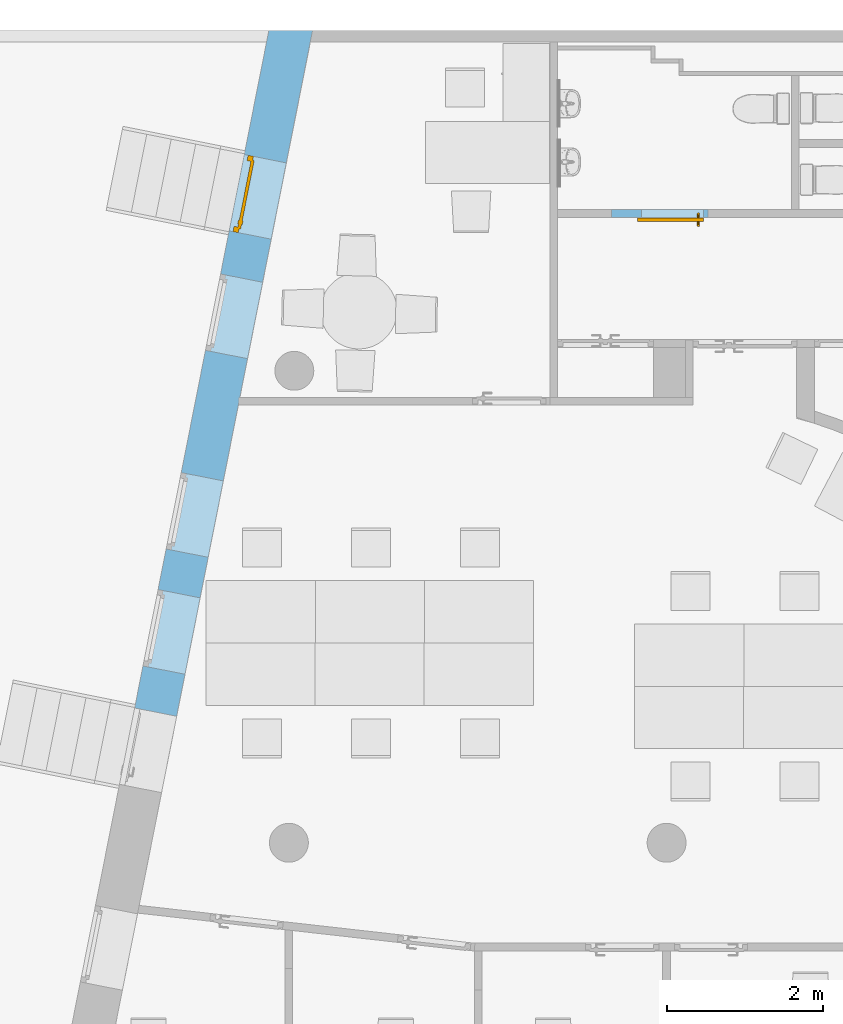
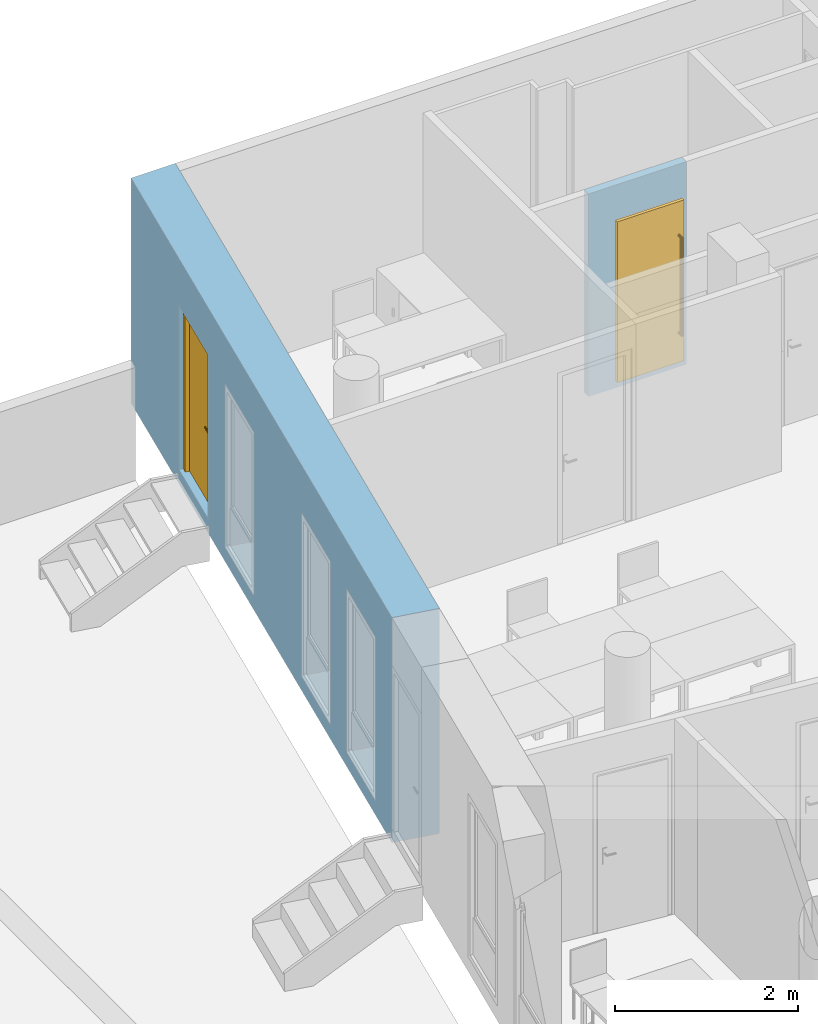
"""IFC4 building model written with IfcOpenShell, lengths in metres."""

from ifc_helpers import new_model, entity, si_unit, converted_unit, derived_unit, frame, frame_2d, origin, origin_with_axes, place, context, subcontext, project, spatial, polyline, rectangle, outline, extrude, faceted_brep, source, transform, mapped, material, layer, layer_set, layer_usage, element, fill, save


model = new_model("IFC4")

# Units and contexts
model_context = context("Model", 3, precision=1e-05, world=origin())
body_context = subcontext(model_context, "Body", "Model", "MODEL_VIEW")
ifc_project = project(units=[si_unit("LENGTHUNIT", "METRE"), si_unit("AREAUNIT", "SQUARE_METRE"), si_unit("VOLUMEUNIT", "CUBIC_METRE"), si_unit("MASSUNIT", "GRAM", prefix="KILO"), converted_unit("PLANEANGLEUNIT", "DEGREE", entity("IfcPlaneAngleMeasure", 0.0174532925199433), si_unit("PLANEANGLEUNIT", "RADIAN"), dimensions=[0, 0, 0, 0, 0, 0, 0]), derived_unit("THERMALTRANSMITTANCEUNIT", [(si_unit("POWERUNIT", "WATT"), 1), (si_unit("THERMODYNAMICTEMPERATUREUNIT", "KELVIN"), -1), (si_unit("LENGTHUNIT", "METRE"), -2)]), derived_unit("VOLUMETRICFLOWRATEUNIT", [(si_unit("LENGTHUNIT", "METRE"), 3), (converted_unit("TIMEUNIT", "hour", entity("IfcTimeMeasure", 3600.0), si_unit("TIMEUNIT", "SECOND"), dimensions=[0, 0, 1, 0, 0, 0, 0]), -1), (si_unit("LENGTHUNIT", "METRE"), -1)])], contexts=[model_context])

# Building, storeys
building_placement = place(None, origin())
building = spatial("IfcBuilding", under=ifc_project, at=building_placement, Name="HABITATGE PLURIFAMILIAR", CompositionType="ELEMENT")
storey_1_placement = place(building_placement, frame((0.0, 0.0, 6.25)))
storey_1 = spatial("IfcBuildingStorey", under=building, at=storey_1_placement, Name="PLANTA PRIMERA", CompositionType="ELEMENT", Elevation=6.25)
storey_2_placement = place(storey_1_placement, frame((0.0, 0.0, 3.35)))
storey_2 = spatial("IfcBuildingStorey", under=storey_1, at=storey_2_placement, Name="NOU", CompositionType="PARTIAL")

# Wall, openings, door
ifc_material_1 = material()
ifc_layer_1 = layer(ifc_material_1, 0.549999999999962)
ifc_layer_set_1 = layer_set([ifc_layer_1])
ifc_layer_usage_1 = layer_usage(ifc_layer_set_1, "AXIS2", "POSITIVE", 0.0)
wall_1_placement = place(storey_2_placement, frame((400.729735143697, 28.22824790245, -3.45), z_axis=(0.0, 0.0, 1.0), x_axis=(-0.194348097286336, -0.980932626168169, 0.0)))
wall_1 = element("IfcWall", 1, at=wall_1_placement, inside=storey_2, material=ifc_layer_usage_1, Name="Façana nord-oest P1", context=body_context, shape_type="SweptSolid", body=[
    extrude(outline(polyline([(-8.97166570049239, -0.0207741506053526), (-0.104853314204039, -0.0207741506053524), (-0.104853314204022, 0.52922584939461), (-9.08063491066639, 0.529225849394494), (-8.97166570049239, -0.0207741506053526)])), frame((8.97166570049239, 0.0207741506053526, 0.0), z_axis=(0.0, 0.0, 1.0), x_axis=(1.0, 0.0, 0.0)), (0.0, 0.0, 1.0), 3.01),
])
opening_1_placement = place(wall_1_placement, frame((5.78586367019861, 0.0, 0.19), z_axis=(-2.14971474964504e-14, 1.0, 0.0), x_axis=(0.0, 0.0, 1.0)))
element("IfcOpeningElement", 2, at=opening_1_placement, cuts=wall_1, Name="Vano de Finestra P1", ObjectType="Opening", context=body_context, shape_type="SweptSolid", body=[
    extrude(outline(polyline([(2.19, 0.999999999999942), (2.19, 0.0), (0.0, 0.0), (0.0, 0.999999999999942), (2.19, 0.999999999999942)])), origin_with_axes(), (0.0, 0.0, 1.0), 0.550000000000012),
])
opening_2_placement = place(wall_1_placement, frame((3.18586367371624, 0.0, 0.19), z_axis=(1.9016707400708e-14, 1.0, 0.0), x_axis=(0.0, 0.0, 1.0)))
element("IfcOpeningElement", 3, at=opening_2_placement, cuts=wall_1, Name="Vano de Finestra P1", ObjectType="Opening", context=body_context, shape_type="SweptSolid", body=[
    extrude(outline(polyline([(2.19, 1.00000000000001), (2.19, 0.0), (0.0, 0.0), (0.0, 1.00000000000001), (2.19, 1.00000000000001)])), origin_with_axes(), (0.0, 0.0, 1.0), 0.549999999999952),
])
opening_3_placement = place(wall_1_placement, frame((7.31681238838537, 0.0, 0.19), z_axis=(-2.14971474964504e-14, 1.0, 0.0), x_axis=(0.0, 0.0, 1.0)))
element("IfcOpeningElement", 4, at=opening_3_placement, cuts=wall_1, Name="Vano de Finestra P1", ObjectType="Opening", context=body_context, shape_type="SweptSolid", body=[
    extrude(outline(polyline([(2.19, 0.999999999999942), (2.19, 0.0), (0.0, 0.0), (0.0, 0.999999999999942), (2.19, 0.999999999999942)])), origin_with_axes(), (0.0, 0.0, 1.0), 0.550000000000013),
])
opening_4_placement = place(wall_1_placement, frame((1.62283528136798, 0.0, 0.19), z_axis=(7.85472696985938e-15, 1.0, 0.0), x_axis=(0.0, 0.0, 1.0)))
opening_4 = element("IfcOpeningElement", 5, at=opening_4_placement, cuts=wall_1, Name="Vano de puerta P1", ObjectType="Opening", context=body_context, shape_type="SweptSolid", body=[
    extrude(outline(polyline([(2.19, 0.999036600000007), (2.19, 0.0), (0.0, 0.0), (0.0, 0.999036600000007), (2.19, 0.999036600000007)])), origin_with_axes(), (0.0, 0.0, 1.0), 0.549999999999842),
])
shared_shape_1 = source(origin_with_axes(), body_context, "Body", "Brep", [
    faceted_brep([(0.999036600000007, 0.0800000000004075, 2.19), (0.929036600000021, 0.0800000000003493, 2.19), (0.929036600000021, 0.0800000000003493, 0.0), (0.999036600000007, 0.0800000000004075, 0.0), (0.999036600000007, 0.01, 0.0), (0.929036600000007, 0.0100000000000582, 0.0), (0.929036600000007, 0.0100000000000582, 2.19), (0.999036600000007, 0.01, 2.19)], [[[0, 1, 2, 3]], [[4, 5, 6, 7]], [[3, 4, 7, 0]], [[2, 5, 4, 3]], [[1, 6, 5, 2]], [[0, 7, 6, 1]]], orient=[[False], [False], [False], [False], [False], [False]]),
    faceted_brep([(0.0700000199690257, 0.0800000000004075, 2.19), (1.99690111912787e-08, 0.0800000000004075, 2.19), (1.99690111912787e-08, 0.0800000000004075, 0.0), (0.0700000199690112, 0.0800000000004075, 0.0), (0.0700000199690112, 0.0100000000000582, 0.0), (1.99690111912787e-08, 0.0100000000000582, 0.0), (1.99690111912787e-08, 0.0100000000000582, 2.19), (0.0700000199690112, 0.0100000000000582, 2.19)], [[[0, 1, 2, 3]], [[4, 5, 6, 7]], [[3, 4, 7, 0]], [[2, 5, 4, 3]], [[1, 6, 5, 2]], [[0, 7, 6, 1]]], orient=[[False], [False], [False], [False], [False], [False]]),
    faceted_brep([(0.929036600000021, 0.0800000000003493, 2.19), (0.0700000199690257, 0.0800000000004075, 2.19), (0.0700000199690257, 0.0800000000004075, 2.12), (0.929036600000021, 0.0800000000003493, 2.12), (0.929036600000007, 0.0100000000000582, 2.12), (0.0700000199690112, 0.0100000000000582, 2.12), (0.0700000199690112, 0.0100000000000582, 2.19), (0.929036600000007, 0.0100000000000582, 2.19)], [[[0, 1, 2, 3]], [[4, 5, 6, 7]], [[3, 4, 7, 0]], [[2, 5, 4, 3]], [[1, 6, 5, 2]], [[0, 7, 6, 1]]], orient=[[False], [False], [False], [False], [False], [False]]),
    faceted_brep([(0.949036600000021, 0.100000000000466, 2.14), (0.0500000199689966, 0.100000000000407, 2.14), (0.0500000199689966, 0.100000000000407, 0.0), (0.949036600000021, 0.100000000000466, 0.0), (0.949036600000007, 0.0600000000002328, 0.0), (0.0500000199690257, 0.0600000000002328, 0.0), (0.0500000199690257, 0.0600000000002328, 2.14), (0.949036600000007, 0.0600000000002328, 2.14)], [[[0, 1, 2, 3]], [[4, 5, 6, 7]], [[3, 4, 7, 0]], [[2, 5, 4, 3]], [[1, 6, 5, 2]], [[0, 7, 6, 1]]], orient=[[False], [False], [False], [False], [False], [False]]),
    faceted_brep([(0.889036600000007, 0.060000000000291, 1.125), (0.839036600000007, 0.060000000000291, 1.125), (0.839036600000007, 0.060000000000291, 0.91), (0.889036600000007, 0.060000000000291, 0.91), (0.889036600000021, 0.0500000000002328, 0.91), (0.839036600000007, 0.0500000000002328, 0.91), (0.839036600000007, 0.0500000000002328, 1.125), (0.889036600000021, 0.0500000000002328, 1.125)], [[[0, 1, 2, 3]], [[4, 5, 6, 7]], [[3, 4, 7, 0]], [[2, 5, 4, 3]], [[1, 6, 5, 2]], [[0, 7, 6, 1]]], orient=[[False], [False], [False], [False], [False], [False]]),
    faceted_brep([(0.864036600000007, 0.0500000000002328, 1.06), (0.859036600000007, 0.0500000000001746, 1.05866025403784), (0.85537634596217, 0.0500000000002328, 1.055), (0.854036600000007, 0.0500000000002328, 1.05), (0.85537634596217, 0.0500000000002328, 1.045), (0.859036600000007, 0.0500000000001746, 1.04133974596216), (0.864036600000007, 0.0500000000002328, 1.04), (0.869036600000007, 0.0500000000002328, 1.04133974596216), (0.872696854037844, 0.0500000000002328, 1.045), (0.874036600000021, 0.0500000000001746, 1.05), (0.872696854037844, 0.0500000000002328, 1.055), (0.869036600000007, 0.0500000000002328, 1.05866025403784), (0.869036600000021, 0.005, 1.05866025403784), (0.864036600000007, 0.0100000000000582, 1.06), (0.872696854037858, 0.0013397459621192, 1.055), (0.874036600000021, 0.0, 1.05), (0.872696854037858, 0.0013397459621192, 1.045), (0.869036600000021, 0.005, 1.04133974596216), (0.864036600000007, 0.0100000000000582, 1.04), (0.859036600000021, 0.0150000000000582, 1.04133974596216), (0.85537634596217, 0.018660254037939, 1.045), (0.854036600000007, 0.0200000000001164, 1.05), (0.85537634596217, 0.018660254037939, 1.055), (0.859036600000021, 0.0150000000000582, 1.05866025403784), (0.749036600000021, 0.01, 1.06), (0.749036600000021, 0.005, 1.05866025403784), (0.749036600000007, 0.0013397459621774, 1.055), (0.749036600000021, 0.0, 1.05), (0.749036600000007, 0.0013397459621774, 1.045), (0.749036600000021, 0.005, 1.04133974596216), (0.749036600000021, 0.01, 1.04), (0.749036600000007, 0.0150000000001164, 1.04133974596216), (0.749036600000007, 0.0186602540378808, 1.045), (0.749036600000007, 0.0200000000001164, 1.05), (0.749036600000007, 0.0186602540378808, 1.055), (0.749036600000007, 0.0150000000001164, 1.05866025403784)], [[[0, 1, 2, 3, 4, 5, 6, 7, 8, 9, 10, 11]], [[0, 11, 12, 13]], [[11, 10, 14, 12]], [[10, 9, 15, 14]], [[9, 8, 16, 15]], [[8, 7, 17, 16]], [[7, 6, 18, 17]], [[6, 5, 19, 18]], [[5, 4, 20, 19]], [[4, 3, 21, 20]], [[3, 2, 22, 21]], [[2, 1, 23, 22]], [[1, 0, 13, 23]], [[24, 25, 26, 27, 28, 29, 30, 31, 32, 33, 34, 35]], [[13, 12, 25, 24]], [[12, 14, 26, 25]], [[14, 15, 27, 26]], [[15, 16, 28, 27]], [[16, 17, 29, 28]], [[17, 18, 30, 29]], [[18, 19, 31, 30]], [[19, 20, 32, 31]], [[20, 21, 33, 32]], [[21, 22, 34, 33]], [[22, 23, 35, 34]], [[23, 13, 24, 35]]], orient=[[False], [False], [False], [False], [False], [False], [False], [False], [False], [False], [False], [False], [False], [False], [False], [False], [False], [False], [False], [False], [False], [False], [False], [False], [False], [False]]),
    faceted_brep([(0.889036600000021, 0.100000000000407, 1.125), (0.889036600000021, 0.100000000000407, 0.91), (0.839036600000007, 0.100000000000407, 0.91), (0.839036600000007, 0.100000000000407, 1.125), (0.889036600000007, 0.110000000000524, 0.91), (0.889036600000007, 0.110000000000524, 1.125), (0.839036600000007, 0.110000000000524, 1.125), (0.839036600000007, 0.110000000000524, 0.91)], [[[0, 1, 2, 3]], [[4, 5, 6, 7]], [[1, 0, 5, 4]], [[2, 1, 4, 7]], [[3, 2, 7, 6]], [[0, 3, 6, 5]]], orient=[[False], [False], [False], [False], [False], [False]]),
    faceted_brep([(0.864036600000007, 0.110000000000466, 1.06), (0.869036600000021, 0.110000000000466, 1.05866025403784), (0.872696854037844, 0.110000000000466, 1.055), (0.874036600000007, 0.110000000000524, 1.05), (0.872696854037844, 0.110000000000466, 1.045), (0.869036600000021, 0.110000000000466, 1.04133974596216), (0.864036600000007, 0.110000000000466, 1.04), (0.859036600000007, 0.110000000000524, 1.04133974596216), (0.85537634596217, 0.110000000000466, 1.045), (0.854036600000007, 0.110000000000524, 1.05), (0.85537634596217, 0.110000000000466, 1.055), (0.859036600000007, 0.110000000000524, 1.05866025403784), (0.864036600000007, 0.150000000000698, 1.06), (0.869036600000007, 0.155000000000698, 1.05866025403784), (0.872696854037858, 0.158660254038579, 1.055), (0.874036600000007, 0.160000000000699, 1.05), (0.872696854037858, 0.158660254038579, 1.045), (0.869036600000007, 0.155000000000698, 1.04133974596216), (0.864036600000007, 0.150000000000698, 1.04), (0.859036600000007, 0.14500000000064, 1.04133974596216), (0.855376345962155, 0.141339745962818, 1.045), (0.854036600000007, 0.140000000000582, 1.05), (0.855376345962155, 0.141339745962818, 1.055), (0.859036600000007, 0.14500000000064, 1.05866025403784), (0.749036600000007, 0.150000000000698, 1.06), (0.749036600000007, 0.14500000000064, 1.05866025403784), (0.749036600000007, 0.141339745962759, 1.055), (0.749036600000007, 0.14000000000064, 1.05), (0.749036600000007, 0.141339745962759, 1.045), (0.749036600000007, 0.14500000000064, 1.04133974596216), (0.749036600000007, 0.150000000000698, 1.04), (0.749036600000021, 0.15500000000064, 1.04133974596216), (0.749036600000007, 0.158660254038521, 1.045), (0.749036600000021, 0.160000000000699, 1.05), (0.749036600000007, 0.158660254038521, 1.055), (0.749036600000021, 0.15500000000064, 1.05866025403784)], [[[0, 1, 2, 3, 4, 5, 6, 7, 8, 9, 10, 11]], [[0, 12, 13, 1]], [[1, 13, 14, 2]], [[2, 14, 15, 3]], [[3, 15, 16, 4]], [[4, 16, 17, 5]], [[5, 17, 18, 6]], [[6, 18, 19, 7]], [[7, 19, 20, 8]], [[8, 20, 21, 9]], [[9, 21, 22, 10]], [[10, 22, 23, 11]], [[11, 23, 12, 0]], [[24, 25, 26, 27, 28, 29, 30, 31, 32, 33, 34, 35]], [[12, 24, 35, 13]], [[13, 35, 34, 14]], [[14, 34, 33, 15]], [[15, 33, 32, 16]], [[16, 32, 31, 17]], [[17, 31, 30, 18]], [[18, 30, 29, 19]], [[19, 29, 28, 20]], [[20, 28, 27, 21]], [[21, 27, 26, 22]], [[22, 26, 25, 23]], [[23, 25, 24, 12]]], orient=[[False], [False], [False], [False], [False], [False], [False], [False], [False], [False], [False], [False], [False], [False], [False], [False], [False], [False], [False], [False], [False], [False], [False], [False], [False], [False]]),
])
door_1_placement = place(opening_4_placement, frame((0.0, 0.0, 0.0399999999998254), z_axis=(1.0, 0.0, 0.0), x_axis=(0.0, 1.0, 1.99840144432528e-15)))
door_1 = element("IfcDoor", 6, at=door_1_placement, inside=storey_2, Name="Porta exterior P1", OperationType="USERDEFINED", OverallHeight=2.19, OverallWidth=0.99904, PredefinedType="DOOR", context=body_context, shape_type="MappedRepresentation", body=[
    mapped(shared_shape_1, transform((0.0, 0.0, 0.0), x_axis=(1.0, 0.0, 0.0), y_axis=(0.0, 1.0, 0.0), z_axis=(0.0, 0.0, 1.0), scale=1.0)),
])
fill(opening_4, door_1)

# Wall, opening, door
ifc_material_2 = material()
ifc_layer_2 = layer(ifc_material_2, 0.1)
ifc_layer_set_2 = layer_set([ifc_layer_2])
ifc_layer_usage_2 = layer_usage(ifc_layer_set_2, "AXIS2", "POSITIVE", 0.0)
wall_2_placement = place(storey_2_placement, frame((405.129650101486, 25.8294598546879, -3.45)))
wall_2 = element("IfcWall", 7, at=wall_2_placement, inside=storey_2, material=ifc_layer_usage_2, Name="Envans P1", context=body_context, shape_type="SweptSolid", body=[
    extrude(rectangle(XDim=1.23655993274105, YDim=0.1, at=frame_2d((0.618279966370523, 0.05), x_axis=(1.0, 0.0))), origin_with_axes(), (0.0, 0.0, 1.0), 2.71),
])
opening_5_placement = place(wall_2_placement, frame((1.1799606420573, 0.1, 0.1), z_axis=(0.0, -1.0, 0.0), x_axis=(0.0, 0.0, 1.0)))
opening_5 = element("IfcOpeningElement", 8, at=opening_5_placement, cuts=wall_2, Name="Vano de puerta P1", ObjectType="Opening", context=body_context, shape_type="SweptSolid", body=[
    extrude(outline(polyline([(2.15, 0.79404624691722), (2.15, 0.0), (0.0, 0.0), (0.0, 0.79404624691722), (2.15, 0.79404624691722)])), origin_with_axes(), (0.0, 0.0, 1.0), 0.1),
])
shared_shape_2 = source(origin_with_axes(), body_context, "Body", "Brep", [
    faceted_brep([(0.0, 0.15, 2.15), (0.0, 0.15, 0.0), (0.84404624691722, 0.15, 0.0), (0.84404624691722, 0.15, 2.15), (0.0, 0.11, 0.0), (0.0, 0.11, 2.15), (0.84404624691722, 0.11, 2.15), (0.84404624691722, 0.11, 0.0)], [[[0, 1, 2, 3]], [[4, 5, 6, 7]], [[1, 0, 5, 4]], [[2, 1, 4, 7]], [[3, 2, 7, 6]], [[0, 3, 6, 5]]], orient=[[False], [False], [False], [False], [False], [False]]),
    faceted_brep([(0.08, 0.11, 1.7), (0.0779903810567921, 0.11, 1.7075), (0.0725, 0.11, 1.71299038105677), (0.065, 0.11, 1.715), (0.0575, 0.11, 1.71299038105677), (0.0520096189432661, 0.11, 1.7075), (0.05, 0.11, 1.7), (0.0520096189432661, 0.11, 1.6925), (0.0575, 0.11, 1.68700961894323), (0.065, 0.11, 1.685), (0.0725, 0.11, 1.68700961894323), (0.0779903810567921, 0.11, 1.6925), (0.08, 0.055, 1.7), (0.0779903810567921, 0.0475, 1.7075), (0.0725, 0.0420096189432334, 1.71299038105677), (0.065, 0.04, 1.715), (0.0575, 0.0420096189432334, 1.71299038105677), (0.0520096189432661, 0.0475, 1.7075), (0.05, 0.055, 1.7), (0.0520096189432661, 0.0625, 1.6925), (0.0575, 0.0679903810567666, 1.68700961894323), (0.065, 0.07, 1.685), (0.0725, 0.0679903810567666, 1.68700961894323), (0.0779903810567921, 0.0625, 1.6925), (0.08, 0.055, 0.4), (0.0779903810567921, 0.0475, 0.3925), (0.0725, 0.0420096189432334, 0.387009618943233), (0.065, 0.04, 0.385), (0.0575, 0.0420096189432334, 0.387009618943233), (0.0520096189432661, 0.0475, 0.3925), (0.05, 0.055, 0.4), (0.0520096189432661, 0.0625, 0.4075), (0.0575, 0.0679903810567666, 0.412990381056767), (0.065, 0.07, 0.415), (0.0725, 0.0679903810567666, 0.412990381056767), (0.0779903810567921, 0.0625, 0.4075), (0.08, 0.11, 0.4), (0.0779903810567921, 0.11, 0.4075), (0.0725, 0.11, 0.412990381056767), (0.065, 0.11, 0.415), (0.0575, 0.11, 0.412990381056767), (0.0520096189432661, 0.11, 0.4075), (0.05, 0.11, 0.4), (0.0520096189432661, 0.11, 0.3925), (0.0575, 0.11, 0.387009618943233), (0.065, 0.11, 0.385), (0.0725, 0.11, 0.387009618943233), (0.0779903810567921, 0.11, 0.3925)], [[[0, 1, 2, 3, 4, 5, 6, 7, 8, 9, 10, 11]], [[0, 12, 13, 1]], [[1, 13, 14, 2]], [[2, 14, 15, 3]], [[3, 15, 16, 4]], [[4, 16, 17, 5]], [[5, 17, 18, 6]], [[6, 18, 19, 7]], [[7, 19, 20, 8]], [[8, 20, 21, 9]], [[9, 21, 22, 10]], [[10, 22, 23, 11]], [[11, 23, 12, 0]], [[12, 24, 25, 13]], [[13, 25, 26, 14]], [[14, 26, 27, 15]], [[15, 27, 28, 16]], [[16, 28, 29, 17]], [[17, 29, 30, 18]], [[18, 30, 31, 19]], [[19, 31, 32, 20]], [[20, 32, 33, 21]], [[21, 33, 34, 22]], [[22, 34, 35, 23]], [[23, 35, 24, 12]], [[36, 37, 38, 39, 40, 41, 42, 43, 44, 45, 46, 47]], [[24, 36, 47, 25]], [[25, 47, 46, 26]], [[26, 46, 45, 27]], [[27, 45, 44, 28]], [[28, 44, 43, 29]], [[29, 43, 42, 30]], [[30, 42, 41, 31]], [[31, 41, 40, 32]], [[32, 40, 39, 33]], [[33, 39, 38, 34]], [[34, 38, 37, 35]], [[35, 37, 36, 24]]], orient=[[False], [False], [False], [False], [False], [False], [False], [False], [False], [False], [False], [False], [False], [False], [False], [False], [False], [False], [False], [False], [False], [False], [False], [False], [False], [False], [False], [False], [False], [False], [False], [False], [False], [False], [False], [False], [False], [False]]),
    faceted_brep([(0.08, 0.15, 1.7), (0.0779903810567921, 0.15, 1.6925), (0.0725, 0.15, 1.68700961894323), (0.065, 0.15, 1.685), (0.0575, 0.15, 1.68700961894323), (0.0520096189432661, 0.15, 1.6925), (0.05, 0.15, 1.7), (0.0520096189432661, 0.15, 1.7075), (0.0575, 0.15, 1.71299038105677), (0.065, 0.15, 1.715), (0.0725, 0.15, 1.71299038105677), (0.0779903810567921, 0.15, 1.7075), (0.0779903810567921, 0.2125, 1.7075), (0.08, 0.205, 1.7), (0.0725, 0.217990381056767, 1.71299038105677), (0.065, 0.22, 1.715), (0.0575, 0.217990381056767, 1.71299038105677), (0.0520096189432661, 0.2125, 1.7075), (0.05, 0.205, 1.7), (0.0520096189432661, 0.1975, 1.6925), (0.0575, 0.192009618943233, 1.68700961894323), (0.065, 0.19, 1.685), (0.0725, 0.192009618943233, 1.68700961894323), (0.0779903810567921, 0.1975, 1.6925), (0.0779903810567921, 0.2125, 0.3925), (0.08, 0.205, 0.4), (0.0725, 0.217990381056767, 0.387009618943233), (0.065, 0.22, 0.385), (0.0575, 0.217990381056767, 0.387009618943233), (0.0520096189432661, 0.2125, 0.3925), (0.05, 0.205, 0.4), (0.0520096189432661, 0.1975, 0.4075), (0.0575, 0.192009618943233, 0.412990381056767), (0.065, 0.19, 0.415), (0.0725, 0.192009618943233, 0.412990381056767), (0.0779903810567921, 0.1975, 0.4075), (0.08, 0.15, 0.4), (0.0779903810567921, 0.15, 0.3925), (0.0725, 0.15, 0.387009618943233), (0.065, 0.15, 0.385), (0.0575, 0.15, 0.387009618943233), (0.0520096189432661, 0.15, 0.3925), (0.05, 0.15, 0.4), (0.0520096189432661, 0.15, 0.4075), (0.0575, 0.15, 0.412990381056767), (0.065, 0.15, 0.415), (0.0725, 0.15, 0.412990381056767), (0.0779903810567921, 0.15, 0.4075)], [[[0, 1, 2, 3, 4, 5, 6, 7, 8, 9, 10, 11]], [[0, 11, 12, 13]], [[11, 10, 14, 12]], [[10, 9, 15, 14]], [[9, 8, 16, 15]], [[8, 7, 17, 16]], [[7, 6, 18, 17]], [[6, 5, 19, 18]], [[5, 4, 20, 19]], [[4, 3, 21, 20]], [[3, 2, 22, 21]], [[2, 1, 23, 22]], [[1, 0, 13, 23]], [[13, 12, 24, 25]], [[12, 14, 26, 24]], [[14, 15, 27, 26]], [[15, 16, 28, 27]], [[16, 17, 29, 28]], [[17, 18, 30, 29]], [[18, 19, 31, 30]], [[19, 20, 32, 31]], [[20, 21, 33, 32]], [[21, 22, 34, 33]], [[22, 23, 35, 34]], [[23, 13, 25, 35]], [[36, 37, 38, 39, 40, 41, 42, 43, 44, 45, 46, 47]], [[25, 24, 37, 36]], [[24, 26, 38, 37]], [[26, 27, 39, 38]], [[27, 28, 40, 39]], [[28, 29, 41, 40]], [[29, 30, 42, 41]], [[30, 31, 43, 42]], [[31, 32, 44, 43]], [[32, 33, 45, 44]], [[33, 34, 46, 45]], [[34, 35, 47, 46]], [[35, 25, 36, 47]]], orient=[[False], [False], [False], [False], [False], [False], [False], [False], [False], [False], [False], [False], [False], [False], [False], [False], [False], [False], [False], [False], [False], [False], [False], [False], [False], [False], [False], [False], [False], [False], [False], [False], [False], [False], [False], [False], [False], [False]]),
])
door_2_placement = place(opening_5_placement, frame((0.0, 0.0, 0.0), z_axis=(1.0, 0.0, 0.0), x_axis=(0.0, 1.0, 0.0)))
door_2 = element("IfcDoor", 9, at=door_2_placement, inside=storey_2, Name="Porta P1", OperationType="USERDEFINED", OverallHeight=2.15, OverallWidth=0.79405, PredefinedType="DOOR", context=body_context, shape_type="MappedRepresentation", body=[
    mapped(shared_shape_2, transform((0.0, 0.0, 0.0), x_axis=(1.0, 0.0, 0.0), y_axis=(0.0, 1.0, 0.0), z_axis=(0.0, 0.0, 1.0), scale=1.0)),
])
fill(opening_5, door_2)

save(model, "model.ifc")
